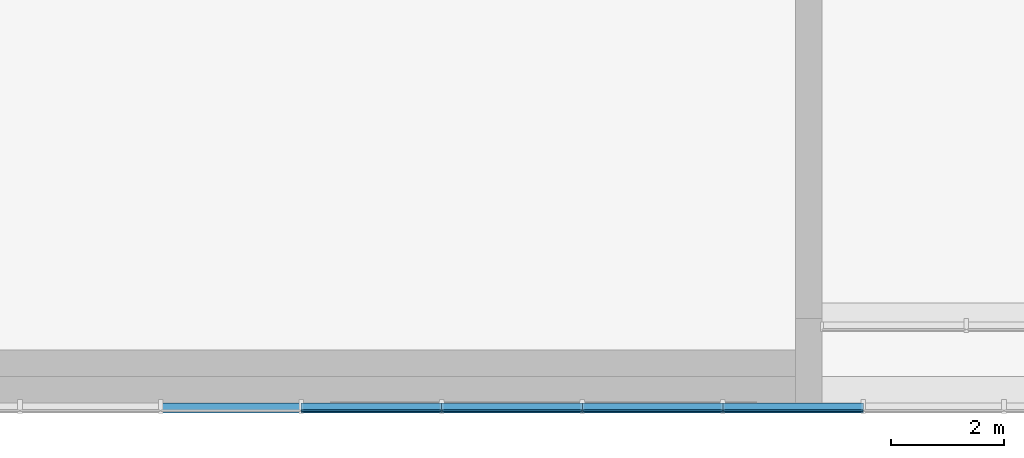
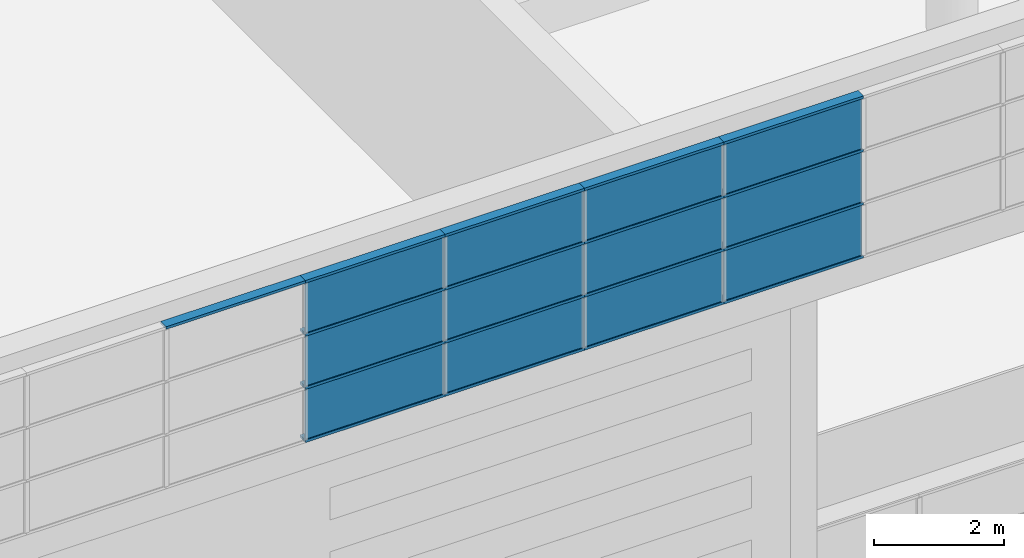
# One storey, part 20 of 105: 29 building element parts, 1 element without a shape of its own.
"""IFC4 building model written with IfcOpenShell, lengths in millimetres."""

from ifc_helpers import new_model, entity, si_unit, converted_unit, derived_unit, direction, frame, origin_with_axes, place, context, subcontext, project, spatial, triangles, material, element, aggregate, save


model = new_model("IFC4")

# Units and contexts
model_context = context("Model", 3, precision=1e-05, world=origin_with_axes(), true_north=direction((0.0, 1.0)))
body_context = subcontext(model_context, "Body", "Model", "MODEL_VIEW")
ifc_project = project(units=[si_unit("LENGTHUNIT", "METRE", prefix="MILLI"), si_unit("AREAUNIT", "SQUARE_METRE"), si_unit("VOLUMEUNIT", "CUBIC_METRE"), converted_unit("PLANEANGLEUNIT", "DEGREE", entity("IfcLengthMeasure", 0.017453), si_unit("PLANEANGLEUNIT", "RADIAN"), dimensions=[0, 0, 0, 0, 0, 0, 0]), si_unit("SOLIDANGLEUNIT", "STERADIAN"), si_unit("MASSUNIT", "GRAM"), si_unit("TIMEUNIT", "SECOND"), si_unit("THERMODYNAMICTEMPERATUREUNIT", "DEGREE_CELSIUS"), si_unit("LUMINOUSINTENSITYUNIT", "LUMEN"), si_unit("POWERUNIT", "WATT"), derived_unit("THERMALTRANSMITTANCEUNIT", [(si_unit("POWERUNIT", "WATT"), 1), (si_unit("THERMODYNAMICTEMPERATUREUNIT", "KELVIN"), -1), (si_unit("AREAUNIT", "SQUARE_METRE"), -1)])], contexts=[model_context])

# Site, building, storey
site_placement = place(None, origin_with_axes())
site = spatial("IfcSite", under=ifc_project, at=site_placement, Name="Default Site", CompositionType="ELEMENT")
building_placement = place(site_placement, origin_with_axes())
building = spatial("IfcBuilding", under=site, at=building_placement, Name="Default Building", CompositionType="ELEMENT")
storey_placement = place(building_placement, origin_with_axes())
storey = spatial("IfcBuildingStorey", under=building, at=storey_placement, Name="OG - Story", CompositionType="ELEMENT", Elevation=0.0)

# Curtain wall, building element parts
curtain_wall_placement = place(storey_placement, origin_with_axes())
curtain_wall = element("IfcCurtainWall", 1, at=curtain_wall_placement, inside=storey, Name="Fassade-002", PredefinedType="NOTDEFINED")
ifc_material_1 = material(Name="Normalglas")
building_element_part_1_placement = place(curtain_wall_placement, frame((33339.077852, -52722.262838, 8660.317768), z_axis=(0.0, 0.0, 1.0), x_axis=(1.0, 0.0, 0.0)))
building_element_part_1 = element("IfcBuildingElementPart", 2, at=building_element_part_1_placement, material=ifc_material_1, Name="Normalglas", PredefinedType="NOTDEFINED", context=body_context, shape_type="Tessellation", body=[
    triangles([(11159.418, 15.0, 995.0), (8697.325, 15.0, 995.0), (8697.325, -14.999, 995.0), (11159.418, -14.999, 995.0), (11159.418, 15.0, 5.0), (8697.325, 15.0, 5.0), (8697.325, -14.999, 5.0), (11159.418, -14.999, 5.0)], [[1, 2, 3], [1, 3, 4], [1, 5, 6], [1, 6, 2], [2, 6, 7], [2, 7, 3], [4, 3, 7], [4, 7, 8], [5, 1, 4], [5, 4, 8], [6, 5, 8], [6, 8, 7]], closed=False),
])
building_element_part_2_placement = place(curtain_wall_placement, frame((33339.077852, -52722.262838, 8660.317768), z_axis=(0.0, 0.0, 1.0), x_axis=(1.0, 0.0, 0.0)))
building_element_part_2 = element("IfcBuildingElementPart", 3, at=building_element_part_2_placement, material=ifc_material_1, Name="Normalglas", PredefinedType="NOTDEFINED", context=body_context, shape_type="Tessellation", body=[
    triangles([(13641.511, 15.0, 995.0), (11179.418, 15.0, 995.0), (11179.418, -14.999, 995.0), (13641.511, -14.999, 995.0), (13641.511, 15.0, 5.0), (11179.418, 15.0, 5.0), (11179.418, -14.999, 5.0), (13641.511, -14.999, 5.0)], [[1, 2, 3], [1, 3, 4], [1, 5, 6], [1, 6, 2], [2, 6, 7], [2, 7, 3], [4, 3, 7], [4, 7, 8], [5, 1, 4], [5, 4, 8], [6, 5, 8], [6, 8, 7]], closed=False),
])
building_element_part_3_placement = place(curtain_wall_placement, frame((33339.077852, -52722.262838, 8660.317768), z_axis=(0.0, 0.0, 1.0), x_axis=(1.0, 0.0, 0.0)))
building_element_part_3 = element("IfcBuildingElementPart", 4, at=building_element_part_3_placement, material=ifc_material_1, Name="Normalglas", PredefinedType="NOTDEFINED", context=body_context, shape_type="Tessellation", body=[
    triangles([(16123.604, 15.0, 995.0), (13661.511, 15.0, 995.0), (13661.511, -14.999, 995.0), (16123.604, -14.999, 995.0), (16123.604, 15.0, 5.0), (13661.511, 15.0, 5.0), (13661.511, -14.999, 5.0), (16123.604, -14.999, 5.0)], [[1, 2, 3], [1, 3, 4], [1, 5, 6], [1, 6, 2], [2, 6, 7], [2, 7, 3], [4, 3, 7], [4, 7, 8], [5, 1, 4], [5, 4, 8], [6, 5, 8], [6, 8, 7]], closed=False),
])
building_element_part_4_placement = place(curtain_wall_placement, frame((33339.077852, -52722.262838, 8660.317768), z_axis=(0.0, 0.0, 1.0), x_axis=(1.0, 0.0, 0.0)))
building_element_part_4 = element("IfcBuildingElementPart", 5, at=building_element_part_4_placement, material=ifc_material_1, Name="Normalglas", PredefinedType="NOTDEFINED", context=body_context, shape_type="Tessellation", body=[
    triangles([(18605.697, 15.0, 995.0), (16143.604, 15.0, 995.0), (16143.604, -14.999, 995.0), (18605.697, -14.999, 995.0), (18605.697, 15.0, 5.0), (16143.604, 15.0, 5.0), (16143.604, -14.999, 5.0), (18605.697, -14.999, 5.0)], [[1, 2, 3], [1, 3, 4], [1, 5, 6], [1, 6, 2], [2, 6, 7], [2, 7, 3], [4, 3, 7], [4, 7, 8], [5, 1, 4], [5, 4, 8], [6, 5, 8], [6, 8, 7]], closed=False),
])
building_element_part_5_placement = place(curtain_wall_placement, frame((33339.077852, -52722.262838, 8660.317768), z_axis=(0.0, 0.0, 1.0), x_axis=(1.0, 0.0, 0.0)))
building_element_part_5 = element("IfcBuildingElementPart", 6, at=building_element_part_5_placement, material=ifc_material_1, Name="Normalglas", PredefinedType="NOTDEFINED", context=body_context, shape_type="Tessellation", body=[
    triangles([(11159.418, 15.0, 1995.0), (8697.325, 15.0, 1995.0), (8697.325, -14.999, 1995.0), (11159.418, -14.999, 1995.0), (11159.418, 15.0, 1005.0), (8697.325, 15.0, 1005.0), (8697.325, -14.999, 1005.0), (11159.418, -14.999, 1005.0)], [[1, 2, 3], [1, 3, 4], [1, 5, 6], [1, 6, 2], [2, 6, 7], [2, 7, 3], [4, 3, 7], [4, 7, 8], [5, 1, 4], [5, 4, 8], [6, 5, 8], [6, 8, 7]], closed=False),
])
building_element_part_6_placement = place(curtain_wall_placement, frame((33339.077852, -52722.262838, 8660.317768), z_axis=(0.0, 0.0, 1.0), x_axis=(1.0, 0.0, 0.0)))
building_element_part_6 = element("IfcBuildingElementPart", 7, at=building_element_part_6_placement, material=ifc_material_1, Name="Normalglas", PredefinedType="NOTDEFINED", context=body_context, shape_type="Tessellation", body=[
    triangles([(13641.511, 15.0, 1995.0), (11179.418, 15.0, 1995.0), (11179.418, -14.999, 1995.0), (13641.511, -14.999, 1995.0), (13641.511, 15.0, 1005.0), (11179.418, 15.0, 1005.0), (11179.418, -14.999, 1005.0), (13641.511, -14.999, 1005.0)], [[1, 2, 3], [1, 3, 4], [1, 5, 6], [1, 6, 2], [2, 6, 7], [2, 7, 3], [4, 3, 7], [4, 7, 8], [5, 1, 4], [5, 4, 8], [6, 5, 8], [6, 8, 7]], closed=False),
])
building_element_part_7_placement = place(curtain_wall_placement, frame((33339.077852, -52722.262838, 8660.317768), z_axis=(0.0, 0.0, 1.0), x_axis=(1.0, 0.0, 0.0)))
building_element_part_7 = element("IfcBuildingElementPart", 8, at=building_element_part_7_placement, material=ifc_material_1, Name="Normalglas", PredefinedType="NOTDEFINED", context=body_context, shape_type="Tessellation", body=[
    triangles([(16123.604, 15.0, 1995.0), (13661.511, 15.0, 1995.0), (13661.511, -14.999, 1995.0), (16123.604, -14.999, 1995.0), (16123.604, 15.0, 1005.0), (13661.511, 15.0, 1005.0), (13661.511, -14.999, 1005.0), (16123.604, -14.999, 1005.0)], [[1, 2, 3], [1, 3, 4], [1, 5, 6], [1, 6, 2], [2, 6, 7], [2, 7, 3], [4, 3, 7], [4, 7, 8], [5, 1, 4], [5, 4, 8], [6, 5, 8], [6, 8, 7]], closed=False),
])
building_element_part_8_placement = place(curtain_wall_placement, frame((33339.077852, -52722.262838, 8660.317768), z_axis=(0.0, 0.0, 1.0), x_axis=(1.0, 0.0, 0.0)))
building_element_part_8 = element("IfcBuildingElementPart", 9, at=building_element_part_8_placement, material=ifc_material_1, Name="Normalglas", PredefinedType="NOTDEFINED", context=body_context, shape_type="Tessellation", body=[
    triangles([(18605.697, 15.0, 1995.0), (16143.604, 15.0, 1995.0), (16143.604, -14.999, 1995.0), (18605.697, -14.999, 1995.0), (18605.697, 15.0, 1005.0), (16143.604, 15.0, 1005.0), (16143.604, -14.999, 1005.0), (18605.697, -14.999, 1005.0)], [[1, 2, 3], [1, 3, 4], [1, 5, 6], [1, 6, 2], [2, 6, 7], [2, 7, 3], [4, 3, 7], [4, 7, 8], [5, 1, 4], [5, 4, 8], [6, 5, 8], [6, 8, 7]], closed=False),
])
building_element_part_9_placement = place(curtain_wall_placement, frame((33339.077852, -52722.262838, 8660.317768), z_axis=(0.0, 0.0, 1.0), x_axis=(1.0, 0.0, 0.0)))
building_element_part_9 = element("IfcBuildingElementPart", 10, at=building_element_part_9_placement, material=ifc_material_1, Name="Normalglas", PredefinedType="NOTDEFINED", context=body_context, shape_type="Tessellation", body=[
    triangles([(11159.418, 15.0, 2995.0), (8697.325, 15.0, 2995.0), (8697.325, -14.999, 2995.0), (11159.418, -14.999, 2995.0), (11159.418, 15.0, 2005.0), (8697.325, 15.0, 2005.0), (8697.325, -14.999, 2005.0), (11159.418, -14.999, 2005.0)], [[1, 2, 3], [1, 3, 4], [1, 5, 6], [1, 6, 2], [2, 6, 7], [2, 7, 3], [4, 3, 7], [4, 7, 8], [5, 1, 4], [5, 4, 8], [6, 5, 8], [6, 8, 7]], closed=False),
])
building_element_part_10_placement = place(curtain_wall_placement, frame((33339.077852, -52722.262838, 8660.317768), z_axis=(0.0, 0.0, 1.0), x_axis=(1.0, 0.0, 0.0)))
building_element_part_10 = element("IfcBuildingElementPart", 11, at=building_element_part_10_placement, material=ifc_material_1, Name="Normalglas", PredefinedType="NOTDEFINED", context=body_context, shape_type="Tessellation", body=[
    triangles([(13641.511, 15.0, 2995.0), (11179.418, 15.0, 2995.0), (11179.418, -14.999, 2995.0), (13641.511, -14.999, 2995.0), (13641.511, 15.0, 2005.0), (11179.418, 15.0, 2005.0), (11179.418, -14.999, 2005.0), (13641.511, -14.999, 2005.0)], [[1, 2, 3], [1, 3, 4], [1, 5, 6], [1, 6, 2], [2, 6, 7], [2, 7, 3], [4, 3, 7], [4, 7, 8], [5, 1, 4], [5, 4, 8], [6, 5, 8], [6, 8, 7]], closed=False),
])
building_element_part_11_placement = place(curtain_wall_placement, frame((33339.077852, -52722.262838, 8660.317768), z_axis=(0.0, 0.0, 1.0), x_axis=(1.0, 0.0, 0.0)))
building_element_part_11 = element("IfcBuildingElementPart", 12, at=building_element_part_11_placement, material=ifc_material_1, Name="Normalglas", PredefinedType="NOTDEFINED", context=body_context, shape_type="Tessellation", body=[
    triangles([(16123.604, 15.0, 2995.0), (13661.511, 15.0, 2995.0), (13661.511, -14.999, 2995.0), (16123.604, -14.999, 2995.0), (16123.604, 15.0, 2005.0), (13661.511, 15.0, 2005.0), (13661.511, -14.999, 2005.0), (16123.604, -14.999, 2005.0)], [[1, 2, 3], [1, 3, 4], [1, 5, 6], [1, 6, 2], [2, 6, 7], [2, 7, 3], [4, 3, 7], [4, 7, 8], [5, 1, 4], [5, 4, 8], [6, 5, 8], [6, 8, 7]], closed=False),
])
building_element_part_12_placement = place(curtain_wall_placement, frame((33339.077852, -52722.262838, 8660.317768), z_axis=(0.0, 0.0, 1.0), x_axis=(1.0, 0.0, 0.0)))
building_element_part_12 = element("IfcBuildingElementPart", 13, at=building_element_part_12_placement, material=ifc_material_1, Name="Normalglas", PredefinedType="NOTDEFINED", context=body_context, shape_type="Tessellation", body=[
    triangles([(18605.697, 15.0, 2995.0), (16143.604, 15.0, 2995.0), (16143.604, -14.999, 2995.0), (18605.697, -14.999, 2995.0), (18605.697, 15.0, 2005.0), (16143.604, 15.0, 2005.0), (16143.604, -14.999, 2005.0), (18605.697, -14.999, 2005.0)], [[1, 2, 3], [1, 3, 4], [1, 5, 6], [1, 6, 2], [2, 6, 7], [2, 7, 3], [4, 3, 7], [4, 7, 8], [5, 1, 4], [5, 4, 8], [6, 5, 8], [6, 8, 7]], closed=False),
])
ifc_material_2 = material(Name="Blech")
building_element_part_13_placement = place(curtain_wall_placement, frame((33339.077852, -52722.262838, 8660.317768), z_axis=(0.0, 0.0, 1.0), x_axis=(1.0, 0.0, 0.0)))
building_element_part_13 = element("IfcBuildingElementPart", 14, at=building_element_part_13_placement, material=ifc_material_2, Name="Blech", PredefinedType="NOTDEFINED", context=body_context, shape_type="Tessellation", body=[
    triangles([(11169.418, 15.0, 25.0), (11169.418, 133.0, 25.0), (11169.418, 15.0, 5.0), (11169.418, 133.0, -24.999), (11169.418, -14.999, 5.0), (11169.418, -34.999, -24.999), (11169.418, -14.999, 25.0), (11169.418, -34.999, 25.0), (8687.325, 15.0, 5.0), (8687.325, -14.999, 5.0), (8687.325, -14.999, 25.0), (8687.325, -34.999, 25.0), (8687.325, -34.999, -24.999), (8687.325, 133.0, -24.999), (8687.325, 133.0, 25.0), (8687.325, 15.0, 25.0)], [[1, 2, 3], [3, 2, 4], [3, 4, 5], [5, 4, 6], [5, 6, 7], [7, 6, 8], [5, 3, 9], [5, 9, 10], [11, 7, 5], [11, 5, 10], [7, 11, 12], [7, 12, 8], [13, 6, 8], [13, 8, 12], [14, 4, 6], [14, 6, 13], [15, 2, 4], [15, 4, 14], [16, 1, 2], [16, 2, 15], [3, 1, 16], [3, 16, 9], [16, 15, 9], [9, 15, 14], [9, 14, 10], [10, 14, 13], [10, 13, 11], [11, 13, 12]], closed=False),
])
building_element_part_14_placement = place(curtain_wall_placement, frame((33339.077852, -52722.262838, 8660.317768), z_axis=(0.0, 0.0, 1.0), x_axis=(1.0, 0.0, 0.0)))
building_element_part_14 = element("IfcBuildingElementPart", 15, at=building_element_part_14_placement, material=ifc_material_2, Name="Blech", PredefinedType="NOTDEFINED", context=body_context, shape_type="Tessellation", body=[
    triangles([(13651.511, 15.0, 25.0), (13651.511, 133.0, 25.0), (13651.511, 15.0, 5.0), (13651.511, 133.0, -24.999), (13651.511, -14.999, 5.0), (13651.511, -34.999, -24.999), (13651.511, -14.999, 25.0), (13651.511, -34.999, 25.0), (11169.418, 15.0, 5.0), (11169.418, -14.999, 5.0), (11169.418, -14.999, 25.0), (11169.418, -34.999, 25.0), (11169.418, -34.999, -24.999), (11169.418, 133.0, -24.999), (11169.418, 133.0, 25.0), (11169.418, 15.0, 25.0)], [[1, 2, 3], [3, 2, 4], [3, 4, 5], [5, 4, 6], [5, 6, 7], [7, 6, 8], [5, 3, 9], [5, 9, 10], [11, 7, 5], [11, 5, 10], [7, 11, 12], [7, 12, 8], [13, 6, 8], [13, 8, 12], [14, 4, 6], [14, 6, 13], [15, 2, 4], [15, 4, 14], [16, 1, 2], [16, 2, 15], [3, 1, 16], [3, 16, 9], [16, 15, 9], [9, 15, 14], [9, 14, 10], [10, 14, 13], [10, 13, 11], [11, 13, 12]], closed=False),
])
building_element_part_15_placement = place(curtain_wall_placement, frame((33339.077852, -52722.262838, 8660.317768), z_axis=(0.0, 0.0, 1.0), x_axis=(1.0, 0.0, 0.0)))
building_element_part_15 = element("IfcBuildingElementPart", 16, at=building_element_part_15_placement, material=ifc_material_2, Name="Blech", PredefinedType="NOTDEFINED", context=body_context, shape_type="Tessellation", body=[
    triangles([(16133.604, 15.0, 25.0), (16133.604, 133.0, 25.0), (16133.604, 15.0, 5.0), (16133.604, 133.0, -24.999), (16133.604, -14.999, 5.0), (16133.604, -34.999, -24.999), (16133.604, -14.999, 25.0), (16133.604, -34.999, 25.0), (13651.511, 15.0, 5.0), (13651.511, -14.999, 5.0), (13651.511, -14.999, 25.0), (13651.511, -34.999, 25.0), (13651.511, -34.999, -24.999), (13651.511, 133.0, -24.999), (13651.511, 133.0, 25.0), (13651.511, 15.0, 25.0)], [[1, 2, 3], [3, 2, 4], [3, 4, 5], [5, 4, 6], [5, 6, 7], [7, 6, 8], [5, 3, 9], [5, 9, 10], [11, 7, 5], [11, 5, 10], [7, 11, 12], [7, 12, 8], [13, 6, 8], [13, 8, 12], [14, 4, 6], [14, 6, 13], [15, 2, 4], [15, 4, 14], [16, 1, 2], [16, 2, 15], [3, 1, 16], [3, 16, 9], [16, 15, 9], [9, 15, 14], [9, 14, 10], [10, 14, 13], [10, 13, 11], [11, 13, 12]], closed=False),
])
building_element_part_16_placement = place(curtain_wall_placement, frame((33339.077852, -52722.262838, 8660.317768), z_axis=(0.0, 0.0, 1.0), x_axis=(1.0, 0.0, 0.0)))
building_element_part_16 = element("IfcBuildingElementPart", 17, at=building_element_part_16_placement, material=ifc_material_2, Name="Blech", PredefinedType="NOTDEFINED", context=body_context, shape_type="Tessellation", body=[
    triangles([(18615.697, 15.0, 25.0), (18615.697, 133.0, 25.0), (18615.697, 15.0, 5.0), (18615.697, 133.0, -24.999), (18615.697, -14.999, 5.0), (18615.697, -34.999, -24.999), (18615.697, -14.999, 25.0), (18615.697, -34.999, 25.0), (16133.604, 15.0, 5.0), (16133.604, -14.999, 5.0), (16133.604, -14.999, 25.0), (16133.604, -34.999, 25.0), (16133.604, -34.999, -24.999), (16133.604, 133.0, -24.999), (16133.604, 133.0, 25.0), (16133.604, 15.0, 25.0)], [[1, 2, 3], [3, 2, 4], [3, 4, 5], [5, 4, 6], [5, 6, 7], [7, 6, 8], [5, 3, 9], [5, 9, 10], [11, 7, 5], [11, 5, 10], [7, 11, 12], [7, 12, 8], [13, 6, 8], [13, 8, 12], [14, 4, 6], [14, 6, 13], [15, 2, 4], [15, 4, 14], [16, 1, 2], [16, 2, 15], [3, 1, 16], [3, 16, 9], [16, 15, 9], [9, 15, 14], [9, 14, 10], [10, 14, 13], [10, 13, 11], [11, 13, 12]], closed=False),
])
building_element_part_17_placement = place(curtain_wall_placement, frame((33339.077852, -52722.262838, 8660.317768), z_axis=(0.0, 0.0, 1.0), x_axis=(1.0, 0.0, 0.0)))
building_element_part_17 = element("IfcBuildingElementPart", 18, at=building_element_part_17_placement, material=ifc_material_2, Name="Blech", PredefinedType="NOTDEFINED", context=body_context, shape_type="Tessellation", body=[
    triangles([(11169.418, 133.0, 1025.0), (11169.418, 15.0, 1025.0), (11169.418, 133.0, 975.0), (11169.418, 15.0, 1005.0), (11169.418, 15.0, 995.0), (11169.418, -14.999, 1005.0), (11169.418, -14.999, 995.0), (11169.418, -14.999, 975.0), (11169.418, -14.999, 1025.0), (11169.418, -34.999, 1025.0), (11169.418, -34.999, 975.0), (11169.418, 15.0, 975.0), (8687.325, 15.0, 995.0), (8687.325, 15.0, 975.0), (8687.325, 133.0, 975.0), (8687.325, 133.0, 1025.0), (8687.325, 15.0, 1025.0), (8687.325, 15.0, 1005.0), (8687.325, -14.999, 1005.0), (8687.325, -14.999, 1025.0), (8687.325, -34.999, 1025.0), (8687.325, -34.999, 975.0), (8687.325, -14.999, 975.0), (8687.325, -14.999, 995.0)], [[1, 2, 3], [3, 2, 4], [3, 4, 5], [5, 4, 6], [5, 6, 7], [8, 9, 10], [8, 10, 11], [3, 5, 12], [12, 5, 13], [12, 13, 14], [12, 14, 15], [12, 15, 3], [1, 3, 15], [1, 15, 16], [2, 1, 16], [2, 16, 17], [2, 17, 18], [2, 18, 4], [4, 18, 19], [4, 19, 6], [9, 6, 19], [9, 19, 20], [20, 21, 10], [20, 10, 9], [11, 10, 21], [11, 21, 22], [23, 8, 11], [23, 11, 22], [7, 8, 23], [7, 23, 24], [5, 7, 24], [5, 24, 13], [15, 14, 16], [16, 14, 13], [16, 13, 18], [18, 13, 24], [18, 24, 19], [20, 23, 22], [20, 22, 21], [16, 18, 17]], closed=False),
])
building_element_part_18_placement = place(curtain_wall_placement, frame((33339.077852, -52722.262838, 8660.317768), z_axis=(0.0, 0.0, 1.0), x_axis=(1.0, 0.0, 0.0)))
building_element_part_18 = element("IfcBuildingElementPart", 19, at=building_element_part_18_placement, material=ifc_material_2, Name="Blech", PredefinedType="NOTDEFINED", context=body_context, shape_type="Tessellation", body=[
    triangles([(13651.511, 133.0, 1025.0), (13651.511, 15.0, 1025.0), (13651.511, 133.0, 975.0), (13651.511, 15.0, 1005.0), (13651.511, 15.0, 995.0), (13651.511, -14.999, 1005.0), (13651.511, -14.999, 995.0), (13651.511, -14.999, 975.0), (13651.511, -14.999, 1025.0), (13651.511, -34.999, 1025.0), (13651.511, -34.999, 975.0), (13651.511, 15.0, 975.0), (11169.418, 15.0, 995.0), (11169.418, 15.0, 975.0), (11169.418, 133.0, 975.0), (11169.418, 133.0, 1025.0), (11169.418, 15.0, 1025.0), (11169.418, 15.0, 1005.0), (11169.418, -14.999, 1005.0), (11169.418, -14.999, 1025.0), (11169.418, -34.999, 1025.0), (11169.418, -34.999, 975.0), (11169.418, -14.999, 975.0), (11169.418, -14.999, 995.0)], [[1, 2, 3], [3, 2, 4], [3, 4, 5], [5, 4, 6], [5, 6, 7], [8, 9, 10], [8, 10, 11], [3, 5, 12], [12, 5, 13], [12, 13, 14], [12, 14, 15], [12, 15, 3], [1, 3, 15], [1, 15, 16], [2, 1, 16], [2, 16, 17], [2, 17, 18], [2, 18, 4], [4, 18, 19], [4, 19, 6], [9, 6, 19], [9, 19, 20], [20, 21, 10], [20, 10, 9], [11, 10, 21], [11, 21, 22], [23, 8, 11], [23, 11, 22], [7, 8, 23], [7, 23, 24], [5, 7, 24], [5, 24, 13], [15, 14, 16], [16, 14, 13], [16, 13, 18], [18, 13, 24], [18, 24, 19], [20, 23, 22], [20, 22, 21], [16, 18, 17]], closed=False),
])
building_element_part_19_placement = place(curtain_wall_placement, frame((33339.077852, -52722.262838, 8660.317768), z_axis=(0.0, 0.0, 1.0), x_axis=(1.0, 0.0, 0.0)))
building_element_part_19 = element("IfcBuildingElementPart", 20, at=building_element_part_19_placement, material=ifc_material_2, Name="Blech", PredefinedType="NOTDEFINED", context=body_context, shape_type="Tessellation", body=[
    triangles([(16133.604, 133.0, 1025.0), (16133.604, 15.0, 1025.0), (16133.604, 133.0, 975.0), (16133.604, 15.0, 1005.0), (16133.604, 15.0, 995.0), (16133.604, -14.999, 1005.0), (16133.604, -14.999, 995.0), (16133.604, -14.999, 975.0), (16133.604, -14.999, 1025.0), (16133.604, -34.999, 1025.0), (16133.604, -34.999, 975.0), (16133.604, 15.0, 975.0), (13651.511, 15.0, 995.0), (13651.511, 15.0, 975.0), (13651.511, 133.0, 975.0), (13651.511, 133.0, 1025.0), (13651.511, 15.0, 1025.0), (13651.511, 15.0, 1005.0), (13651.511, -14.999, 1005.0), (13651.511, -14.999, 1025.0), (13651.511, -34.999, 1025.0), (13651.511, -34.999, 975.0), (13651.511, -14.999, 975.0), (13651.511, -14.999, 995.0)], [[1, 2, 3], [3, 2, 4], [3, 4, 5], [5, 4, 6], [5, 6, 7], [8, 9, 10], [8, 10, 11], [3, 5, 12], [12, 5, 13], [12, 13, 14], [12, 14, 15], [12, 15, 3], [1, 3, 15], [1, 15, 16], [2, 1, 16], [2, 16, 17], [2, 17, 18], [2, 18, 4], [4, 18, 19], [4, 19, 6], [9, 6, 19], [9, 19, 20], [20, 21, 10], [20, 10, 9], [11, 10, 21], [11, 21, 22], [23, 8, 11], [23, 11, 22], [7, 8, 23], [7, 23, 24], [5, 7, 24], [5, 24, 13], [15, 14, 16], [16, 14, 13], [16, 13, 18], [18, 13, 24], [18, 24, 19], [20, 23, 22], [20, 22, 21], [16, 18, 17]], closed=False),
])
building_element_part_20_placement = place(curtain_wall_placement, frame((33339.077852, -52722.262838, 8660.317768), z_axis=(0.0, 0.0, 1.0), x_axis=(1.0, 0.0, 0.0)))
building_element_part_20 = element("IfcBuildingElementPart", 21, at=building_element_part_20_placement, material=ifc_material_2, Name="Blech", PredefinedType="NOTDEFINED", context=body_context, shape_type="Tessellation", body=[
    triangles([(18615.697, 133.0, 1025.0), (18615.697, 15.0, 1025.0), (18615.697, 133.0, 975.0), (18615.697, 15.0, 1005.0), (18615.697, 15.0, 995.0), (18615.697, -14.999, 1005.0), (18615.697, -14.999, 995.0), (18615.697, -14.999, 975.0), (18615.697, -14.999, 1025.0), (18615.697, -34.999, 1025.0), (18615.697, -34.999, 975.0), (18615.697, 15.0, 975.0), (16133.604, 15.0, 995.0), (16133.604, 15.0, 975.0), (16133.604, 133.0, 975.0), (16133.604, 133.0, 1025.0), (16133.604, 15.0, 1025.0), (16133.604, 15.0, 1005.0), (16133.604, -14.999, 1005.0), (16133.604, -14.999, 1025.0), (16133.604, -34.999, 1025.0), (16133.604, -34.999, 975.0), (16133.604, -14.999, 975.0), (16133.604, -14.999, 995.0)], [[1, 2, 3], [3, 2, 4], [3, 4, 5], [5, 4, 6], [5, 6, 7], [8, 9, 10], [8, 10, 11], [3, 5, 12], [12, 5, 13], [12, 13, 14], [12, 14, 15], [12, 15, 3], [1, 3, 15], [1, 15, 16], [2, 1, 16], [2, 16, 17], [2, 17, 18], [2, 18, 4], [4, 18, 19], [4, 19, 6], [9, 6, 19], [9, 19, 20], [20, 21, 10], [20, 10, 9], [11, 10, 21], [11, 21, 22], [23, 8, 11], [23, 11, 22], [7, 8, 23], [7, 23, 24], [5, 7, 24], [5, 24, 13], [15, 14, 16], [16, 14, 13], [16, 13, 18], [18, 13, 24], [18, 24, 19], [20, 23, 22], [20, 22, 21], [16, 18, 17]], closed=False),
])
building_element_part_21_placement = place(curtain_wall_placement, frame((33339.077852, -52722.262838, 8660.317768), z_axis=(0.0, 0.0, 1.0), x_axis=(1.0, 0.0, 0.0)))
building_element_part_21 = element("IfcBuildingElementPart", 22, at=building_element_part_21_placement, material=ifc_material_2, Name="Blech", PredefinedType="NOTDEFINED", context=body_context, shape_type="Tessellation", body=[
    triangles([(8687.325, 15.0, 2975.0), (8687.325, 133.0, 2975.0), (8687.325, 15.0, 2995.0), (8687.325, 133.0, 3025.0), (8687.325, -14.999, 2995.0), (8687.325, -34.999, 3025.0), (8687.325, -14.999, 2975.0), (8687.325, -34.999, 2975.0), (6205.232, 15.0, 2995.0), (6205.232, 15.0, 2975.0), (6205.232, 133.0, 2975.0), (6205.232, 133.0, 3025.0), (6205.232, -34.999, 3025.0), (6205.232, -34.999, 2975.0), (6205.232, -14.999, 2975.0), (6205.232, -14.999, 2995.0)], [[1, 2, 3], [3, 2, 4], [3, 4, 5], [5, 4, 6], [5, 6, 7], [7, 6, 8], [3, 9, 10], [3, 10, 1], [10, 11, 2], [10, 2, 1], [11, 12, 4], [11, 4, 2], [12, 13, 6], [12, 6, 4], [13, 14, 8], [13, 8, 6], [7, 8, 14], [7, 14, 15], [15, 16, 5], [15, 5, 7], [5, 16, 9], [5, 9, 3], [10, 11, 9], [9, 11, 12], [9, 12, 16], [16, 12, 13], [16, 13, 15], [15, 13, 14]], closed=False),
])
building_element_part_22_placement = place(curtain_wall_placement, frame((33339.077852, -52722.262838, 8660.317768), z_axis=(0.0, 0.0, 1.0), x_axis=(1.0, 0.0, 0.0)))
building_element_part_22 = element("IfcBuildingElementPart", 23, at=building_element_part_22_placement, material=ifc_material_2, Name="Blech", PredefinedType="NOTDEFINED", context=body_context, shape_type="Tessellation", body=[
    triangles([(11169.418, 133.0, 2025.0), (11169.418, 15.0, 2025.0), (11169.418, 133.0, 1975.0), (11169.418, 15.0, 2005.0), (11169.418, 15.0, 1995.0), (11169.418, -14.999, 2005.0), (11169.418, -14.999, 1995.0), (11169.418, -14.999, 1975.0), (11169.418, -14.999, 2025.0), (11169.418, -34.999, 2025.0), (11169.418, -34.999, 1975.0), (11169.418, 15.0, 1975.0), (8687.325, 15.0, 1995.0), (8687.325, 15.0, 1975.0), (8687.325, 133.0, 1975.0), (8687.325, 133.0, 2025.0), (8687.325, 15.0, 2025.0), (8687.325, 15.0, 2005.0), (8687.325, -14.999, 2005.0), (8687.325, -14.999, 2025.0), (8687.325, -34.999, 2025.0), (8687.325, -34.999, 1975.0), (8687.325, -14.999, 1975.0), (8687.325, -14.999, 1995.0)], [[1, 2, 3], [3, 2, 4], [3, 4, 5], [5, 4, 6], [5, 6, 7], [8, 9, 10], [8, 10, 11], [3, 5, 12], [12, 5, 13], [12, 13, 14], [12, 14, 15], [12, 15, 3], [1, 3, 15], [1, 15, 16], [2, 1, 16], [2, 16, 17], [2, 17, 18], [2, 18, 4], [4, 18, 19], [4, 19, 6], [9, 6, 19], [9, 19, 20], [20, 21, 10], [20, 10, 9], [11, 10, 21], [11, 21, 22], [23, 8, 11], [23, 11, 22], [7, 8, 23], [7, 23, 24], [5, 7, 24], [5, 24, 13], [15, 14, 16], [16, 14, 13], [16, 13, 18], [18, 13, 24], [18, 24, 19], [20, 23, 22], [20, 22, 21], [16, 18, 17]], closed=False),
])
building_element_part_23_placement = place(curtain_wall_placement, frame((33339.077852, -52722.262838, 8660.317768), z_axis=(0.0, 0.0, 1.0), x_axis=(1.0, 0.0, 0.0)))
building_element_part_23 = element("IfcBuildingElementPart", 24, at=building_element_part_23_placement, material=ifc_material_2, Name="Blech", PredefinedType="NOTDEFINED", context=body_context, shape_type="Tessellation", body=[
    triangles([(11169.418, 15.0, 2975.0), (11169.418, 133.0, 2975.0), (11169.418, 15.0, 2995.0), (11169.418, 133.0, 3025.0), (11169.418, -14.999, 2995.0), (11169.418, -34.999, 3025.0), (11169.418, -14.999, 2975.0), (11169.418, -34.999, 2975.0), (8687.325, 15.0, 2995.0), (8687.325, 15.0, 2975.0), (8687.325, 133.0, 2975.0), (8687.325, 133.0, 3025.0), (8687.325, -34.999, 3025.0), (8687.325, -34.999, 2975.0), (8687.325, -14.999, 2975.0), (8687.325, -14.999, 2995.0)], [[1, 2, 3], [3, 2, 4], [3, 4, 5], [5, 4, 6], [5, 6, 7], [7, 6, 8], [3, 9, 10], [3, 10, 1], [10, 11, 2], [10, 2, 1], [11, 12, 4], [11, 4, 2], [12, 13, 6], [12, 6, 4], [13, 14, 8], [13, 8, 6], [7, 8, 14], [7, 14, 15], [15, 16, 5], [15, 5, 7], [5, 16, 9], [5, 9, 3], [10, 11, 9], [9, 11, 12], [9, 12, 16], [16, 12, 13], [16, 13, 15], [15, 13, 14]], closed=False),
])
building_element_part_24_placement = place(curtain_wall_placement, frame((33339.077852, -52722.262838, 8660.317768), z_axis=(0.0, 0.0, 1.0), x_axis=(1.0, 0.0, 0.0)))
building_element_part_24 = element("IfcBuildingElementPart", 25, at=building_element_part_24_placement, material=ifc_material_2, Name="Blech", PredefinedType="NOTDEFINED", context=body_context, shape_type="Tessellation", body=[
    triangles([(13651.511, 133.0, 2025.0), (13651.511, 15.0, 2025.0), (13651.511, 133.0, 1975.0), (13651.511, 15.0, 2005.0), (13651.511, 15.0, 1995.0), (13651.511, -14.999, 2005.0), (13651.511, -14.999, 1995.0), (13651.511, -14.999, 1975.0), (13651.511, -14.999, 2025.0), (13651.511, -34.999, 2025.0), (13651.511, -34.999, 1975.0), (13651.511, 15.0, 1975.0), (11169.418, 15.0, 1995.0), (11169.418, 15.0, 1975.0), (11169.418, 133.0, 1975.0), (11169.418, 133.0, 2025.0), (11169.418, 15.0, 2025.0), (11169.418, 15.0, 2005.0), (11169.418, -14.999, 2005.0), (11169.418, -14.999, 2025.0), (11169.418, -34.999, 2025.0), (11169.418, -34.999, 1975.0), (11169.418, -14.999, 1975.0), (11169.418, -14.999, 1995.0)], [[1, 2, 3], [3, 2, 4], [3, 4, 5], [5, 4, 6], [5, 6, 7], [8, 9, 10], [8, 10, 11], [3, 5, 12], [12, 5, 13], [12, 13, 14], [12, 14, 15], [12, 15, 3], [1, 3, 15], [1, 15, 16], [2, 1, 16], [2, 16, 17], [2, 17, 18], [2, 18, 4], [4, 18, 19], [4, 19, 6], [9, 6, 19], [9, 19, 20], [20, 21, 10], [20, 10, 9], [11, 10, 21], [11, 21, 22], [23, 8, 11], [23, 11, 22], [7, 8, 23], [7, 23, 24], [5, 7, 24], [5, 24, 13], [15, 14, 16], [16, 14, 13], [16, 13, 18], [18, 13, 24], [18, 24, 19], [20, 23, 22], [20, 22, 21], [16, 18, 17]], closed=False),
])
building_element_part_25_placement = place(curtain_wall_placement, frame((33339.077852, -52722.262838, 8660.317768), z_axis=(0.0, 0.0, 1.0), x_axis=(1.0, 0.0, 0.0)))
building_element_part_25 = element("IfcBuildingElementPart", 26, at=building_element_part_25_placement, material=ifc_material_2, Name="Blech", PredefinedType="NOTDEFINED", context=body_context, shape_type="Tessellation", body=[
    triangles([(13651.511, 15.0, 2975.0), (13651.511, 133.0, 2975.0), (13651.511, 15.0, 2995.0), (13651.511, 133.0, 3025.0), (13651.511, -14.999, 2995.0), (13651.511, -34.999, 3025.0), (13651.511, -14.999, 2975.0), (13651.511, -34.999, 2975.0), (11169.418, 15.0, 2995.0), (11169.418, 15.0, 2975.0), (11169.418, 133.0, 2975.0), (11169.418, 133.0, 3025.0), (11169.418, -34.999, 3025.0), (11169.418, -34.999, 2975.0), (11169.418, -14.999, 2975.0), (11169.418, -14.999, 2995.0)], [[1, 2, 3], [3, 2, 4], [3, 4, 5], [5, 4, 6], [5, 6, 7], [7, 6, 8], [3, 9, 10], [3, 10, 1], [10, 11, 2], [10, 2, 1], [11, 12, 4], [11, 4, 2], [12, 13, 6], [12, 6, 4], [13, 14, 8], [13, 8, 6], [7, 8, 14], [7, 14, 15], [15, 16, 5], [15, 5, 7], [5, 16, 9], [5, 9, 3], [10, 11, 9], [9, 11, 12], [9, 12, 16], [16, 12, 13], [16, 13, 15], [15, 13, 14]], closed=False),
])
building_element_part_26_placement = place(curtain_wall_placement, frame((33339.077852, -52722.262838, 8660.317768), z_axis=(0.0, 0.0, 1.0), x_axis=(1.0, 0.0, 0.0)))
building_element_part_26 = element("IfcBuildingElementPart", 27, at=building_element_part_26_placement, material=ifc_material_2, Name="Blech", PredefinedType="NOTDEFINED", context=body_context, shape_type="Tessellation", body=[
    triangles([(16133.604, 133.0, 2025.0), (16133.604, 15.0, 2025.0), (16133.604, 133.0, 1975.0), (16133.604, 15.0, 2005.0), (16133.604, 15.0, 1995.0), (16133.604, -14.999, 2005.0), (16133.604, -14.999, 1995.0), (16133.604, -14.999, 1975.0), (16133.604, -14.999, 2025.0), (16133.604, -34.999, 2025.0), (16133.604, -34.999, 1975.0), (16133.604, 15.0, 1975.0), (13651.511, 15.0, 1995.0), (13651.511, 15.0, 1975.0), (13651.511, 133.0, 1975.0), (13651.511, 133.0, 2025.0), (13651.511, 15.0, 2025.0), (13651.511, 15.0, 2005.0), (13651.511, -14.999, 2005.0), (13651.511, -14.999, 2025.0), (13651.511, -34.999, 2025.0), (13651.511, -34.999, 1975.0), (13651.511, -14.999, 1975.0), (13651.511, -14.999, 1995.0)], [[1, 2, 3], [3, 2, 4], [3, 4, 5], [5, 4, 6], [5, 6, 7], [8, 9, 10], [8, 10, 11], [3, 5, 12], [12, 5, 13], [12, 13, 14], [12, 14, 15], [12, 15, 3], [1, 3, 15], [1, 15, 16], [2, 1, 16], [2, 16, 17], [2, 17, 18], [2, 18, 4], [4, 18, 19], [4, 19, 6], [9, 6, 19], [9, 19, 20], [20, 21, 10], [20, 10, 9], [11, 10, 21], [11, 21, 22], [23, 8, 11], [23, 11, 22], [7, 8, 23], [7, 23, 24], [5, 7, 24], [5, 24, 13], [15, 14, 16], [16, 14, 13], [16, 13, 18], [18, 13, 24], [18, 24, 19], [20, 23, 22], [20, 22, 21], [16, 18, 17]], closed=False),
])
building_element_part_27_placement = place(curtain_wall_placement, frame((33339.077852, -52722.262838, 8660.317768), z_axis=(0.0, 0.0, 1.0), x_axis=(1.0, 0.0, 0.0)))
building_element_part_27 = element("IfcBuildingElementPart", 28, at=building_element_part_27_placement, material=ifc_material_2, Name="Blech", PredefinedType="NOTDEFINED", context=body_context, shape_type="Tessellation", body=[
    triangles([(16133.604, 15.0, 2975.0), (16133.604, 133.0, 2975.0), (16133.604, 15.0, 2995.0), (16133.604, 133.0, 3025.0), (16133.604, -14.999, 2995.0), (16133.604, -34.999, 3025.0), (16133.604, -14.999, 2975.0), (16133.604, -34.999, 2975.0), (13651.511, 15.0, 2995.0), (13651.511, 15.0, 2975.0), (13651.511, 133.0, 2975.0), (13651.511, 133.0, 3025.0), (13651.511, -34.999, 3025.0), (13651.511, -34.999, 2975.0), (13651.511, -14.999, 2975.0), (13651.511, -14.999, 2995.0)], [[1, 2, 3], [3, 2, 4], [3, 4, 5], [5, 4, 6], [5, 6, 7], [7, 6, 8], [3, 9, 10], [3, 10, 1], [10, 11, 2], [10, 2, 1], [11, 12, 4], [11, 4, 2], [12, 13, 6], [12, 6, 4], [13, 14, 8], [13, 8, 6], [7, 8, 14], [7, 14, 15], [15, 16, 5], [15, 5, 7], [5, 16, 9], [5, 9, 3], [10, 11, 9], [9, 11, 12], [9, 12, 16], [16, 12, 13], [16, 13, 15], [15, 13, 14]], closed=False),
])
building_element_part_28_placement = place(curtain_wall_placement, frame((33339.077852, -52722.262838, 8660.317768), z_axis=(0.0, 0.0, 1.0), x_axis=(1.0, 0.0, 0.0)))
building_element_part_28 = element("IfcBuildingElementPart", 29, at=building_element_part_28_placement, material=ifc_material_2, Name="Blech", PredefinedType="NOTDEFINED", context=body_context, shape_type="Tessellation", body=[
    triangles([(18615.697, 133.0, 2025.0), (18615.697, 15.0, 2025.0), (18615.697, 133.0, 1975.0), (18615.697, 15.0, 2005.0), (18615.697, 15.0, 1995.0), (18615.697, -14.999, 2005.0), (18615.697, -14.999, 1995.0), (18615.697, -14.999, 1975.0), (18615.697, -14.999, 2025.0), (18615.697, -34.999, 2025.0), (18615.697, -34.999, 1975.0), (18615.697, 15.0, 1975.0), (16133.604, 15.0, 1995.0), (16133.604, 15.0, 1975.0), (16133.604, 133.0, 1975.0), (16133.604, 133.0, 2025.0), (16133.604, 15.0, 2025.0), (16133.604, 15.0, 2005.0), (16133.604, -14.999, 2005.0), (16133.604, -14.999, 2025.0), (16133.604, -34.999, 2025.0), (16133.604, -34.999, 1975.0), (16133.604, -14.999, 1975.0), (16133.604, -14.999, 1995.0)], [[1, 2, 3], [3, 2, 4], [3, 4, 5], [5, 4, 6], [5, 6, 7], [8, 9, 10], [8, 10, 11], [3, 5, 12], [12, 5, 13], [12, 13, 14], [12, 14, 15], [12, 15, 3], [1, 3, 15], [1, 15, 16], [2, 1, 16], [2, 16, 17], [2, 17, 18], [2, 18, 4], [4, 18, 19], [4, 19, 6], [9, 6, 19], [9, 19, 20], [20, 21, 10], [20, 10, 9], [11, 10, 21], [11, 21, 22], [23, 8, 11], [23, 11, 22], [7, 8, 23], [7, 23, 24], [5, 7, 24], [5, 24, 13], [15, 14, 16], [16, 14, 13], [16, 13, 18], [18, 13, 24], [18, 24, 19], [20, 23, 22], [20, 22, 21], [16, 18, 17]], closed=False),
])
building_element_part_29_placement = place(curtain_wall_placement, frame((33339.077852, -52722.262838, 8660.317768), z_axis=(0.0, 0.0, 1.0), x_axis=(1.0, 0.0, 0.0)))
building_element_part_29 = element("IfcBuildingElementPart", 30, at=building_element_part_29_placement, material=ifc_material_2, Name="Blech", PredefinedType="NOTDEFINED", context=body_context, shape_type="Tessellation", body=[
    triangles([(18615.697, 15.0, 2975.0), (18615.697, 133.0, 2975.0), (18615.697, 15.0, 2995.0), (18615.697, 133.0, 3025.0), (18615.697, -14.999, 2995.0), (18615.697, -34.999, 3025.0), (18615.697, -14.999, 2975.0), (18615.697, -34.999, 2975.0), (16133.604, 15.0, 2995.0), (16133.604, 15.0, 2975.0), (16133.604, 133.0, 2975.0), (16133.604, 133.0, 3025.0), (16133.604, -34.999, 3025.0), (16133.604, -34.999, 2975.0), (16133.604, -14.999, 2975.0), (16133.604, -14.999, 2995.0)], [[1, 2, 3], [3, 2, 4], [3, 4, 5], [5, 4, 6], [5, 6, 7], [7, 6, 8], [3, 9, 10], [3, 10, 1], [10, 11, 2], [10, 2, 1], [11, 12, 4], [11, 4, 2], [12, 13, 6], [12, 6, 4], [13, 14, 8], [13, 8, 6], [7, 8, 14], [7, 14, 15], [15, 16, 5], [15, 5, 7], [5, 16, 9], [5, 9, 3], [10, 11, 9], [9, 11, 12], [9, 12, 16], [16, 12, 13], [16, 13, 15], [15, 13, 14]], closed=False),
])
aggregate(curtain_wall, [building_element_part_1, building_element_part_2, building_element_part_3, building_element_part_4, building_element_part_5, building_element_part_6, building_element_part_7, building_element_part_8, building_element_part_9, building_element_part_10, building_element_part_11, building_element_part_12, building_element_part_13, building_element_part_14, building_element_part_15, building_element_part_16, building_element_part_17, building_element_part_18, building_element_part_19, building_element_part_20, building_element_part_21, building_element_part_22, building_element_part_23, building_element_part_24, building_element_part_25, building_element_part_26, building_element_part_27, building_element_part_28, building_element_part_29])

save(model, "model.ifc")
